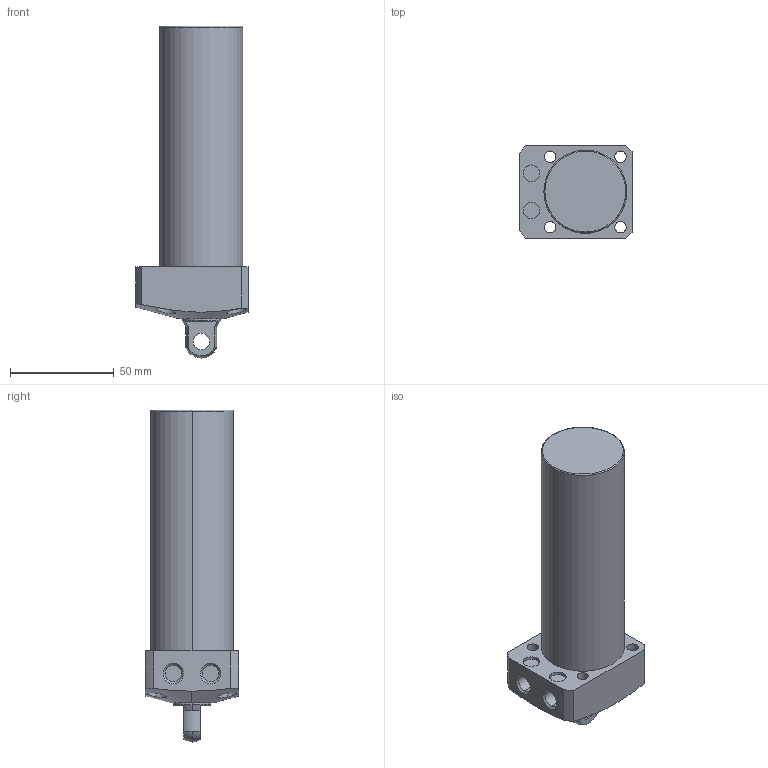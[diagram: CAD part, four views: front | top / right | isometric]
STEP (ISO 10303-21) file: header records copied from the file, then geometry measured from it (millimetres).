
FILE_DESCRIPTION (( 'STEP AP203' ), '1' );
FILE_NAME ('CLL040-CP-090.STEP', '2017-05-17T08:01:42', ( '' ), ( '' ), 'SwSTEP 2.0', 'SolidWorks 2015', '' );
FILE_SCHEMA (( 'CONFIG_CONTROL_DESIGN' ));
Length unit declared in the file: millimetre
Products named in the file (1): CLL040-CP-090
Bounding box: 54 x 45 x 160 mm (x, y, z)
Volume: 197025.2 mm3; surface area: 26590.3 mm2
Topology: 1 solids, 1 shells, 68 faces, 159 edges, 103 vertices
Faces by surface type: cylinder 35, plane 21, cone 8, sphere 2, torus 2
Entity records: 2372 total; most frequent: CARTESIAN_POINT 675, DIRECTION 357, ORIENTED_EDGE 318, EDGE_CURVE 159, AXIS2_PLACEMENT_3D 149, VERTEX_POINT 103, EDGE_LOOP 88, CIRCLE 80
